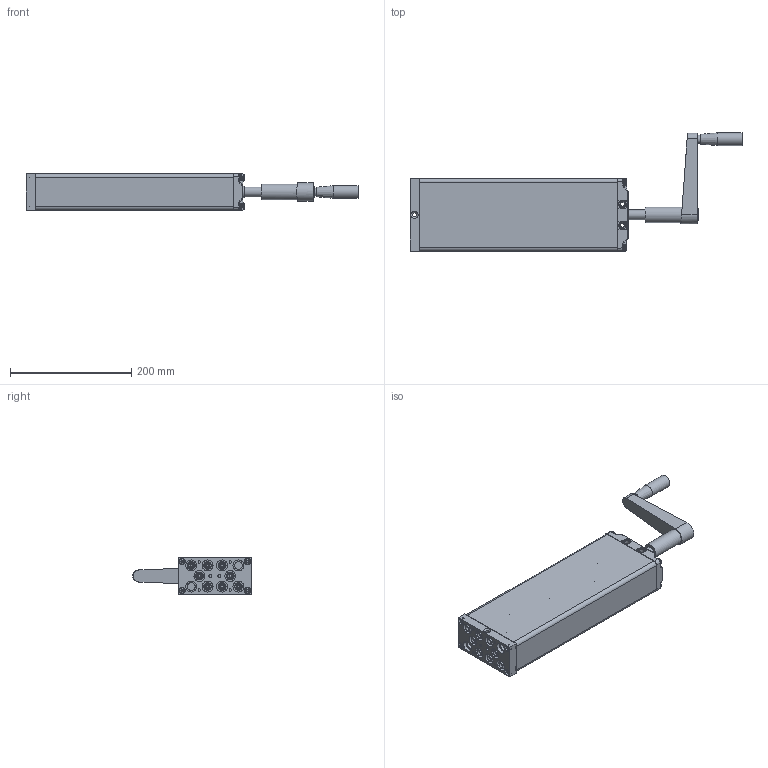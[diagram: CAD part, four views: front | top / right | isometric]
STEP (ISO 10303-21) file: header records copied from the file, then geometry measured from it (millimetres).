
FILE_DESCRIPTION(/* description */ ('Unknown'),/* implementation_level */ '2;1');
FILE_NAME(/* name */ '312.20202 Pumpe PB 8820 W mit Handkurbel',/* time_stamp */ '2016-11-14T17:33:54+01:00',/* author */ ('Unknown'),/* organization */ ('Unknown'),/* preprocessor_version */ 'ST-DEVELOPER v16.7',/* originating_system */ 'DEX',/* authorisation */ $);
FILE_SCHEMA (('AUTOMOTIVE_DESIGN {1 0 10303 214 3 1 1}'));
Products named in the file (23): 102.00202; 115.10032; 125.00061; 115.00008; 142.00021; 125.00021; 113.00005; 128.00001; 125.00052; 126.00013; 125.00053; 127.00014; Handgriff; 142.00013; 125.00142; 115.00140; 126.00006; 122.00040; 119.00042; 126.00036; 142.00057; 142.00083; 142.00017
Assembly tree (40 placements, depth 3):
  102.00202
    115.10032  x8
      125.00061
      115.00008
      142.00021
      125.00021
    113.00005
      128.00001
      125.00052
      126.00013
      125.00053
      127.00014
      Handgriff
    142.00013  x8
    125.00142
    115.00140
      126.00006
      122.00040
    119.00042
    126.00036
    142.00057
    142.00083  x4
    142.00017  x2
Bounding box: 548.75 x 195.5 x 60.3 mm (x, y, z)
Volume: 663763.3 mm3; surface area: 388179.7 mm2
Topology: 50 solids, 50 shells, 2237 faces, 5076 edges, 2975 vertices
Faces by surface type: plane 815, cylinder 510, bspline 380, cone 364, torus 110, sphere 58
Full cylindrical faces by diameter (mm): 3.5 x8, 4 x2, 4.1 x8, 4.134 x4, 4.2 x9, 4.917 x4, 5 x12, 5.8 x4, 6 x2, 6.8 x1, 6.917 x16, 8 x18, 8.5 x4, 9.8 x8, 10 x6, 10.4 x1, 10.5 x4, 12.5 x8, 12.8 x1, 13 x27, 14 x1, 14.4 x8, 16 x2, 17 x1, 17.9 x16, 18 x11, 19 x1, 20.6 x1, 21 x1, 22 x1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
Entity records: 64069 total; most frequent: CARTESIAN_POINT 30507, ORIENTED_EDGE 5368, DIRECTION 4819, EDGE_CURVE 2684, AXIS2_PLACEMENT_3D 1876, VERTEX_POINT 1709, FACE_BOUND 1541, EDGE_LOOP 1538
